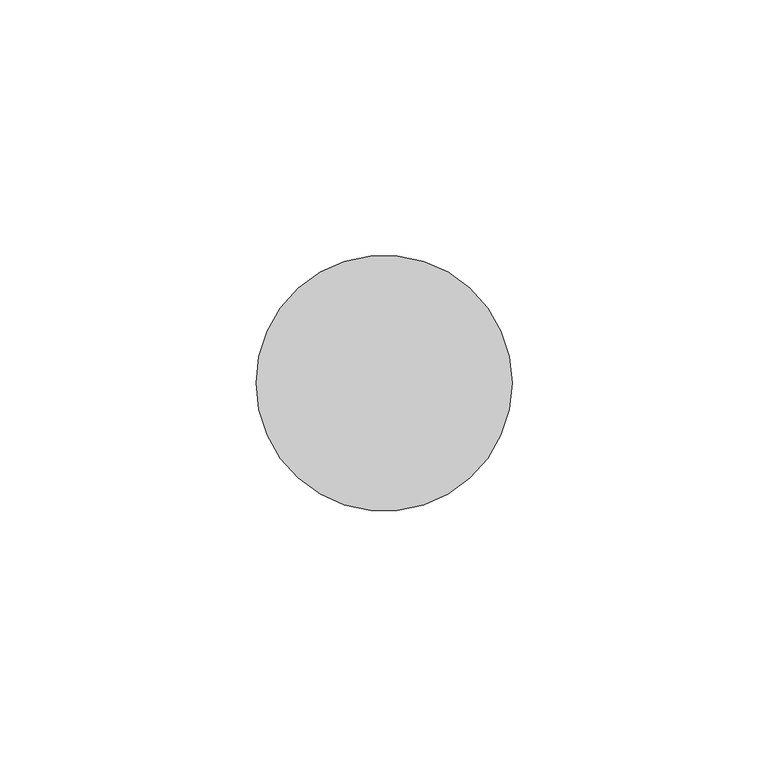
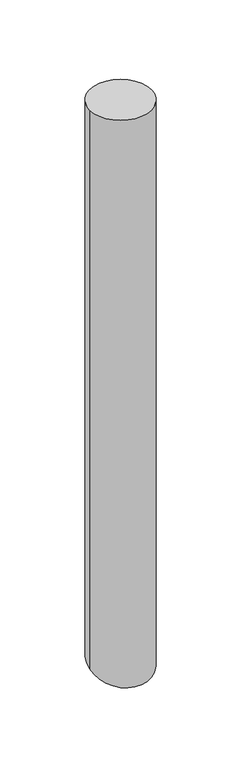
"""IFC4 building model written with IfcOpenShell, lengths in millimetres: member geometry, Импост круглого сечения : Радиус 25мм."""

from ifc_helpers import new_model, si_unit, frame, origin, place, context, project, spatial, circle_curve, ellipse_curve, source, transform, mapped, element, save
from ifc_brep_helpers import plane_surface, cylinder_surface, advanced_brep


def member_5090654c(model_context):
    return source(origin(), model_context, "Body", "AdvancedBrep", [
        advanced_brep(
        [(0.0, 0.0, 0.0), (-50.0, 0.0, 0.0), (0.0, 0.0, -475.0), (-50.0, 0.0, -475.0)],
        [
            (0, 1, circle_curve(frame((-25.0, 0.0, 0.0), z_axis=(0.0, 0.0, 1.0), x_axis=(1.0, 0.0, 0.0)), 25.0)),
            (1, 0, circle_curve(frame((-25.0, 0.0, 0.0), z_axis=(0.0, 0.0, 1.0), x_axis=(1.0, 0.0, 0.0)), 25.0)),
            (0, 2),
            (2, 3, ellipse_curve(frame((-25.0, 0.0, -475.0), z_axis=(0.0, -0.31661280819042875, 0.9485548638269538), x_axis=(0.0, 0.9485548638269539, 0.3166128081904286)), 26.3558819, 25.0)),
            (3, 1),
            (3, 2, ellipse_curve(frame((-25.0, 0.0, -475.0), z_axis=(0.0, -0.31661280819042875, 0.9485548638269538), x_axis=(0.0, 0.9485548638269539, 0.3166128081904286)), 26.3558819, 25.0)),
        ],
        [
            plane_surface(frame((0.0, -50.0, 0.0), z_axis=(0.0, 0.0, 1.0), x_axis=(-1.0, 0.0, 0.0))),
            cylinder_surface(frame((-25.0, 0.0, 0.0), z_axis=(0.0, 0.0, 1.0), x_axis=(1.0, 0.0, 0.0)), 25.0),
            plane_surface(frame((-304.8, 0.0, -475.0), z_axis=(0.0, 0.31661280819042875, -0.9485548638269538), x_axis=(0.0, 0.9485548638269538, 0.31661280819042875))),
        ],
        [
            (0, [[1, 2]]),
            (1, [[-1, 3, 4, 5]]),
            (1, [[-2, -5, 6, -3]]),
            (2, [[-6, -4]]),
        ],
    ),
    ])


if __name__ == "__main__":
    model = new_model("IFC4")
    model_context = context("Model", 3, world=origin())
    ifc_project = project(units=[si_unit("LENGTHUNIT", "METRE", prefix="MILLI")], contexts=[model_context])
    site = spatial("IfcSite", under=ifc_project)
    building = spatial("IfcBuilding", under=site)
    placement = place(None, origin())
    member_shape = member_5090654c(model_context)
    element("IfcMember", 1, ObjectType="Импост круглого сечения : Радиус 25мм", at=placement, inside=building, context=model_context, shape_type="MappedRepresentation", body=[
        mapped(member_shape, transform((0.0, 0.0, 0.0), x_axis=(1.0, 0.0, 0.0), y_axis=(0.0, 1.0, 0.0), z_axis=(0.0, 0.0, 1.0))),
    ])
    save(model, "model.ifc")
